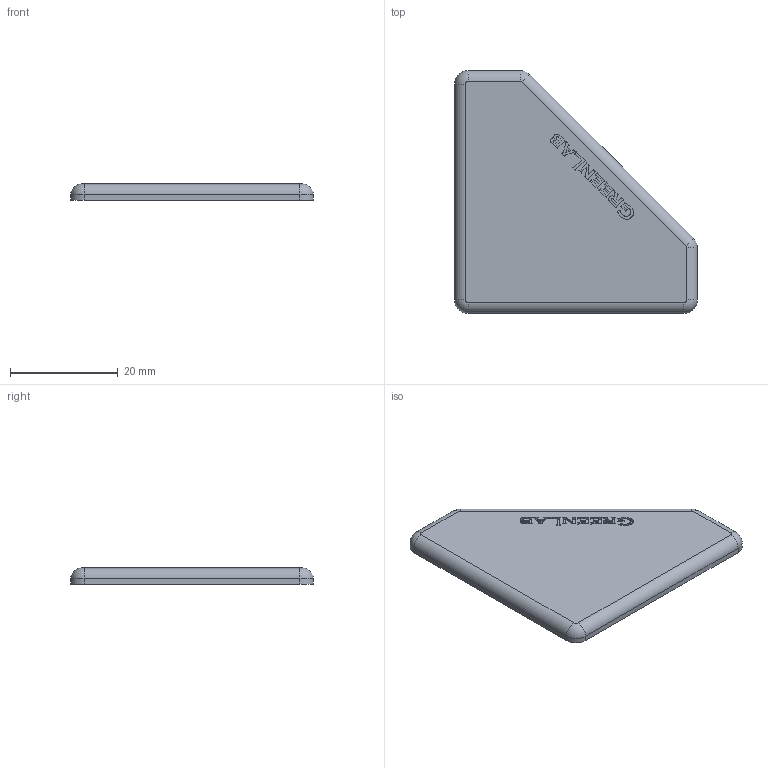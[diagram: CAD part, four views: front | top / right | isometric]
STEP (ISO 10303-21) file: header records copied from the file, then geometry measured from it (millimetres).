
FILE_DESCRIPTION (( 'STEP AP214' ), '1' );
FILE_NAME ('1.1021 Päätysuoja 45 - 45.STEP', '2023-12-04T13:27:01', ( '' ), ( '' ), 'SwSTEP 2.0', 'SolidWorks 2019', '' );
FILE_SCHEMA (( 'AUTOMOTIVE_DESIGN' ));
Length unit declared in the file: millimetre
Products named in the file (1): 1.1021 Päätysuoja 45 - 45
Bounding box: 45 x 45 x 3 mm (x, y, z)
Volume: 4399.3 mm3; surface area: 3419.2 mm2
Topology: 1 solids, 1 shells, 244 faces, 680 edges, 450 vertices
Faces by surface type: plane 144, bspline 85, cylinder 10, torus 5
Entity records: 10417 total; most frequent: CARTESIAN_POINT 4684, ORIENTED_EDGE 1360, DIRECTION 855, EDGE_CURVE 680, LINE 485, VECTOR 485, VERTEX_POINT 450, EDGE_LOOP 256
